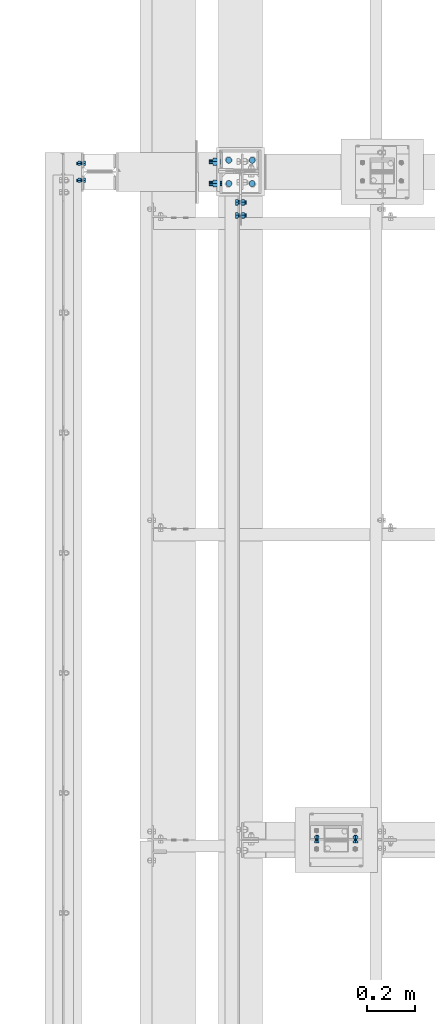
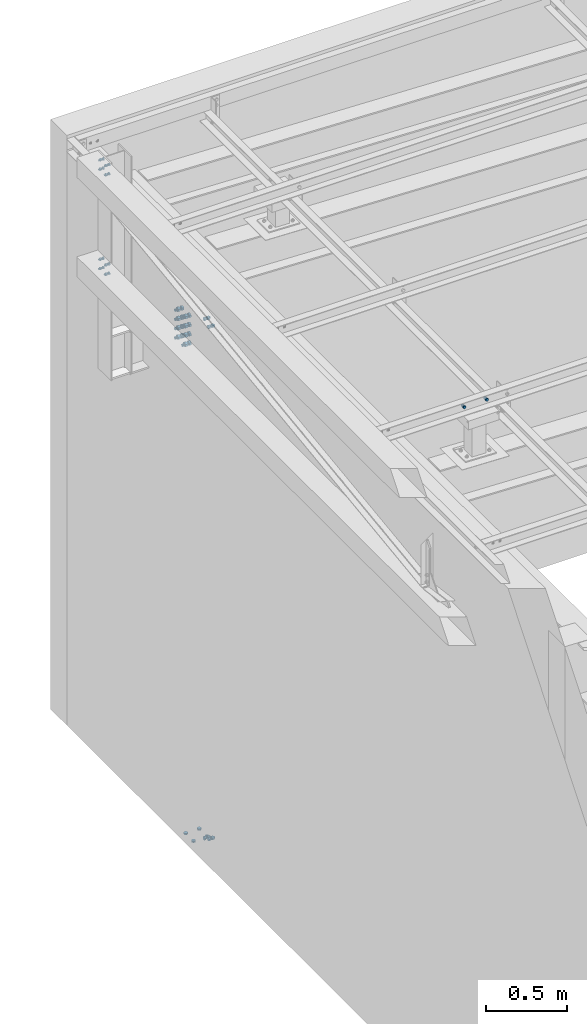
# One storey, part 209 of 3134: 8 mechanical fasteners, 5 elements without a shape of their own.
"""IFC2X3 building model written with IfcOpenShell, lengths in millimetres."""

from ifc_helpers import new_model, si_unit, frame, origin_with_axes, place, context, subcontext, project, spatial, faceted_brep, source, transform, mapped, material, type_object, element, aggregate, save


model = new_model("IFC2X3")

# Units and contexts
model_context = context("Model", 3, precision=1e-05, world=origin_with_axes())
body_context = subcontext(model_context, "Body", "Model", "MODEL_VIEW")
ifc_project = project(units=[si_unit("LENGTHUNIT", "METRE", prefix="MILLI"), si_unit("AREAUNIT", "SQUARE_METRE"), si_unit("VOLUMEUNIT", "CUBIC_METRE"), si_unit("MASSUNIT", "GRAM", prefix="KILO"), si_unit("TIMEUNIT", "SECOND"), si_unit("PLANEANGLEUNIT", "RADIAN"), si_unit("SOLIDANGLEUNIT", "STERADIAN"), si_unit("THERMODYNAMICTEMPERATUREUNIT", "DEGREE_CELSIUS"), si_unit("LUMINOUSINTENSITYUNIT", "LUMEN")], contexts=[model_context])

# Site, building, storey
site_placement = place(None, origin_with_axes())
site = spatial("IfcSite", under=ifc_project, at=site_placement, CompositionType="ELEMENT")
building_placement = place(site_placement, origin_with_axes())
building = spatial("IfcBuilding", under=site, at=building_placement, Name="Undefined", CompositionType="ELEMENT")
storey_placement = place(building_placement, origin_with_axes())
storey = spatial("IfcBuildingStorey", under=building, at=storey_placement, Name="Undefined", CompositionType="ELEMENT", Elevation=0.0)

# Assembly, mechanical fasteners
assembly_1_placement = place(storey_placement, origin_with_axes())
assembly_1 = element("IfcElementAssembly", 1, at=assembly_1_placement, inside=storey, Name="HEA160", AssemblyPlace="NOTDEFINED", PredefinedType="RIGID_FRAME")
ifc_material = material(Name="8.8")
mechanical_fastener_type = type_object("IfcMechanicalFastenerType", Name="Bolt assembly")
shared_shape_1 = source(origin_with_axes(), body_context, "Body", "Brep", [
    faceted_brep([(10.9696551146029, -17.0000000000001, 0.0), (5.48482755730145, -17.0000000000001, 9.5), (-5.48482755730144, -17.0000000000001, 9.5), (-10.9696551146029, -17.0000000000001, 1.34339530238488e-15), (-5.48482755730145, -17.0000000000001, -9.5), (5.48482755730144, -17.0000000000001, -9.50000000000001), (5.48482755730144, -9.00000000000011, -9.50000000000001), (-5.48482755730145, -9.00000000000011, -9.5), (-10.9696551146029, -9.00000000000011, 1.34339530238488e-15), (-5.48482755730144, -9.00000000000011, 9.5), (5.48482755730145, -9.00000000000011, 9.5), (10.9696551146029, -9.00000000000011, 0.0), (6.0, -9.00000000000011, 0.0), (5.19615242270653, -9.00000000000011, 3.00000000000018), (2.99999999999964, -9.00000000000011, 5.19615242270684), (-6.21801588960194e-13, -9.00000000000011, 6.0), (-3.00000000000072, -9.00000000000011, 5.19615242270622), (-5.19615242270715, -9.00000000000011, 2.9999999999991), (-6.0, -9.00000000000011, -1.24360317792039e-12), (-5.19615242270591, -9.00000000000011, -3.00000000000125), (-2.99999999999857, -9.00000000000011, -5.19615242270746), (1.85874342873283e-12, -9.00000000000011, -6.0), (3.00000000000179, -9.00000000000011, -5.1961524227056), (5.19615242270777, -9.00000000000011, -2.99999999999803), (5.19615242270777, 21.0, -2.99999999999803), (3.00000000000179, 21.0, -5.1961524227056), (1.85874342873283e-12, 21.0, -6.0), (-2.99999999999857, 21.0, -5.19615242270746), (-5.19615242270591, 21.0, -3.00000000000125), (-6.0, 21.0, -1.24360317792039e-12), (-5.19615242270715, 21.0, 2.9999999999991), (-3.00000000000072, 21.0, 5.19615242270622), (-6.21801588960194e-13, 21.0, 6.0), (2.99999999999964, 21.0, 5.19615242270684), (5.19615242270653, 21.0, 3.00000000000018), (6.0, 21.0, 0.0), (10.9696551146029, 4.00000000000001, 0.0), (5.48482755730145, 4.00000000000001, 9.5), (-5.48482755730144, 4.00000000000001, 9.5), (-10.9696551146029, 4.00000000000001, 1.34339530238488e-15), (-5.48482755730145, 4.00000000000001, -9.5), (5.48482755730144, 4.00000000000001, -9.50000000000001), (5.48482755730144, 14.0, -9.50000000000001), (-5.48482755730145, 14.0, -9.5), (-10.9696551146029, 14.0, 1.34339530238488e-15), (-5.48482755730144, 14.0, 9.5), (5.48482755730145, 14.0, 9.5), (10.9696551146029, 14.0, 0.0)], [[[0, 1, 2, 3, 4, 5]], [[6, 7, 8, 9, 10, 11]], [[0, 11, 10, 1]], [[1, 10, 9, 2]], [[2, 9, 8, 3]], [[3, 8, 7, 4]], [[4, 7, 6, 5]], [[5, 6, 11, 0]], [[12, 13, 14, 15, 16, 17, 18, 19, 20, 21, 22, 23]], [[24, 25, 26, 27, 28, 29, 30, 31, 32, 33, 34, 35]], [[12, 35, 34, 13]], [[13, 34, 33, 14]], [[14, 33, 32, 15]], [[15, 32, 31, 16]], [[16, 31, 30, 17]], [[17, 30, 29, 18]], [[18, 29, 28, 19]], [[19, 28, 27, 20]], [[20, 27, 26, 21]], [[21, 26, 25, 22]], [[22, 25, 24, 23]], [[23, 24, 35, 12]], [[36, 37, 38, 39, 40, 41]], [[42, 43, 44, 45, 46, 47]], [[36, 47, 46, 37]], [[37, 46, 45, 38]], [[38, 45, 44, 39]], [[39, 44, 43, 40]], [[40, 43, 42, 41]], [[41, 42, 47, 36]]]),
    faceted_brep([(7.0, -0.1, 0.0), (6.06217782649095, -0.1, 3.50000000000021), (3.49999999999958, -0.1, 6.06217782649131), (-7.25435187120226e-13, -0.1, 7.0), (-3.50000000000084, -0.1, 6.06217782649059), (-6.06217782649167, -0.1, 3.49999999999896), (-7.0, -0.1, -1.45087037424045e-12), (-6.06217782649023, -0.1, -3.50000000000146), (-3.49999999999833, -0.1, -6.06217782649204), (2.1685340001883e-12, -0.1, -7.0), (3.50000000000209, -0.1, -6.06217782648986), (6.0621778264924, -0.1, -3.4999999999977), (6.0621778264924, 4.00000000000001, -3.4999999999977), (3.50000000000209, 4.00000000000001, -6.06217782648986), (2.1685340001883e-12, 4.00000000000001, -7.0), (-3.49999999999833, 4.00000000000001, -6.06217782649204), (-6.06217782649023, 4.00000000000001, -3.50000000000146), (-7.0, 4.00000000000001, -1.45087037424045e-12), (-6.06217782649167, 4.00000000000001, 3.49999999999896), (-3.50000000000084, 4.00000000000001, 6.06217782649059), (-7.25435187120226e-13, 4.00000000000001, 7.0), (3.49999999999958, 4.00000000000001, 6.06217782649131), (6.06217782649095, 4.00000000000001, 3.50000000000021), (7.0, 4.00000000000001, 0.0), (7.0, -8.90000000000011, 0.0), (6.06217782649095, -8.90000000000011, 3.50000000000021), (3.49999999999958, -8.90000000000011, 6.06217782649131), (-7.25435187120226e-13, -8.90000000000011, 7.0), (-3.50000000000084, -8.90000000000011, 6.06217782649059), (-6.06217782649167, -8.90000000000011, 3.49999999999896), (-7.0, -8.90000000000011, -1.45087037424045e-12), (-6.06217782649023, -8.90000000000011, -3.50000000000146), (-3.49999999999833, -8.90000000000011, -6.06217782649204), (2.1685340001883e-12, -8.90000000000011, -7.0), (3.50000000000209, -8.90000000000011, -6.06217782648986), (6.0621778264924, -8.90000000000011, -3.4999999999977), (6.0621778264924, 0.0999999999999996, -3.4999999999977), (3.50000000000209, 0.0999999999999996, -6.06217782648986), (2.1685340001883e-12, 0.0999999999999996, -7.0), (-3.49999999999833, 0.0999999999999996, -6.06217782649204), (-6.06217782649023, 0.0999999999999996, -3.50000000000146), (-7.0, 0.0999999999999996, -1.45087037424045e-12), (-6.06217782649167, 0.0999999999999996, 3.49999999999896), (-3.50000000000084, 0.0999999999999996, 6.06217782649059), (-7.25435187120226e-13, 0.0999999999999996, 7.0), (3.49999999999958, 0.0999999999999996, 6.06217782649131), (6.06217782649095, 0.0999999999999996, 3.50000000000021), (7.0, 0.0999999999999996, 0.0)], [[[0, 1, 2, 3, 4, 5, 6, 7, 8, 9, 10, 11]], [[12, 13, 14, 15, 16, 17, 18, 19, 20, 21, 22, 23]], [[0, 23, 22, 1]], [[1, 22, 21, 2]], [[2, 21, 20, 3]], [[3, 20, 19, 4]], [[4, 19, 18, 5]], [[5, 18, 17, 6]], [[6, 17, 16, 7]], [[7, 16, 15, 8]], [[8, 15, 14, 9]], [[9, 14, 13, 10]], [[10, 13, 12, 11]], [[11, 12, 23, 0]], [[24, 25, 26, 27, 28, 29, 30, 31, 32, 33, 34, 35]], [[36, 37, 38, 39, 40, 41, 42, 43, 44, 45, 46, 47]], [[24, 47, 46, 25]], [[25, 46, 45, 26]], [[26, 45, 44, 27]], [[27, 44, 43, 28]], [[28, 43, 42, 29]], [[29, 42, 41, 30]], [[30, 41, 40, 31]], [[31, 40, 39, 32]], [[32, 39, 38, 33]], [[33, 38, 37, 34]], [[34, 37, 36, 35]], [[35, 36, 47, 24]]]),
])
mechanical_fastener_1_placement = place(assembly_1_placement, frame((-657.0, 48525.0, 4160.0), z_axis=(0.0, 1.0, 0.0), x_axis=(0.0, 0.0, -1.0)))
mechanical_fastener_1 = element("IfcMechanicalFastener", 2, at=mechanical_fastener_1_placement, type_object=mechanical_fastener_type, material=ifc_material, Name="Bolt assembly", NominalDiameter=12.0, NominalLength=30.0, context=body_context, shape_type="MappedRepresentation", body=[
    mapped(shared_shape_1, transform((0.0, 0.0, -35.0))),
    mapped(shared_shape_1, transform((70.0, 0.0, -35.0))),
    mapped(shared_shape_1, transform((0.0, 0.0, 35.0))),
    mapped(shared_shape_1, transform((70.0, 0.0, 35.0))),
])
mechanical_fastener_2_placement = place(assembly_1_placement, frame((-657.0, 48525.0, 4910.0), z_axis=(0.0, 1.0, 0.0), x_axis=(0.0, 0.0, -1.0)))
mechanical_fastener_2 = element("IfcMechanicalFastener", 3, at=mechanical_fastener_2_placement, type_object=mechanical_fastener_type, material=ifc_material, Name="Bolt assembly", NominalDiameter=12.0, NominalLength=30.0, context=body_context, shape_type="MappedRepresentation", body=[
    mapped(shared_shape_1, transform((0.0, 0.0, -35.0))),
    mapped(shared_shape_1, transform((70.0, 0.0, -35.0))),
    mapped(shared_shape_1, transform((0.0, 0.0, 35.0))),
    mapped(shared_shape_1, transform((70.0, 0.0, 35.0))),
])
shared_shape_2 = source(origin_with_axes(), body_context, "Body", "Brep", [
    faceted_brep([(17.3205080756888, -13.0, 0.0), (8.66025403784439, -13.0, 15.0), (-8.66025403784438, -13.0, 15.0), (-17.3205080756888, -13.0, 2.12115047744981e-15), (-8.66025403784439, -13.0, -15.0), (8.66025403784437, -13.0, -15.0), (8.66025403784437, 0.0, -15.0), (-8.66025403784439, 0.0, -15.0), (-17.3205080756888, 0.0, 2.12115047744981e-15), (-8.66025403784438, 0.0, 15.0), (8.66025403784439, 0.0, 15.0), (17.3205080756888, 0.0, 0.0), (10.0, 0.0, 0.0), (8.66025403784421, 0.0, 5.0000000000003), (4.9999999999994, 0.0, 8.66025403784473), (-1.03633598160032e-12, 0.0, 10.0), (-5.00000000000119, 0.0, 8.6602540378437), (-8.66025403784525, 0.0, 4.99999999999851), (-10.0, 0.0, -2.07267196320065e-12), (-8.66025403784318, 0.0, -5.00000000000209), (-4.99999999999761, 0.0, -8.66025403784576), (3.09790571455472e-12, 0.0, -10.0), (5.00000000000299, 0.0, -8.66025403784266), (8.66025403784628, 0.0, -4.99999999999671), (8.66025403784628, 45.0, -4.99999999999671), (5.00000000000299, 45.0, -8.66025403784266), (3.09790571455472e-12, 45.0, -10.0), (-4.99999999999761, 45.0, -8.66025403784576), (-8.66025403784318, 45.0, -5.00000000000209), (-10.0, 45.0, -2.07267196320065e-12), (-8.66025403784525, 45.0, 4.99999999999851), (-5.00000000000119, 45.0, 8.6602540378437), (-1.03633598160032e-12, 45.0, 10.0), (4.9999999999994, 45.0, 8.66025403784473), (8.66025403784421, 45.0, 5.0000000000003), (10.0, 45.0, 0.0), (17.3205080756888, 12.0, 0.0), (8.66025403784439, 12.0, 15.0), (-8.66025403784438, 12.0, 15.0), (-17.3205080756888, 12.0, 2.12115047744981e-15), (-8.66025403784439, 12.0, -15.0), (8.66025403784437, 12.0, -15.0), (8.66025403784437, 28.0, -15.0), (-8.66025403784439, 28.0, -15.0), (-17.3205080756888, 28.0, 2.12115047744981e-15), (-8.66025403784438, 28.0, 15.0), (8.66025403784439, 28.0, 15.0), (17.3205080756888, 28.0, 0.0)], [[[0, 1, 2, 3, 4, 5]], [[6, 7, 8, 9, 10, 11]], [[0, 11, 10, 1]], [[1, 10, 9, 2]], [[2, 9, 8, 3]], [[3, 8, 7, 4]], [[4, 7, 6, 5]], [[5, 6, 11, 0]], [[12, 13, 14, 15, 16, 17, 18, 19, 20, 21, 22, 23]], [[24, 25, 26, 27, 28, 29, 30, 31, 32, 33, 34, 35]], [[12, 35, 34, 13]], [[13, 34, 33, 14]], [[14, 33, 32, 15]], [[15, 32, 31, 16]], [[16, 31, 30, 17]], [[17, 30, 29, 18]], [[18, 29, 28, 19]], [[19, 28, 27, 20]], [[20, 27, 26, 21]], [[21, 26, 25, 22]], [[22, 25, 24, 23]], [[23, 24, 35, 12]], [[36, 37, 38, 39, 40, 41]], [[42, 43, 44, 45, 46, 47]], [[36, 47, 46, 37]], [[37, 46, 45, 38]], [[38, 45, 44, 39]], [[39, 44, 43, 40]], [[40, 43, 42, 41]], [[41, 42, 47, 36]]]),
    faceted_brep([(11.0, 0.0, 0.0), (9.52627944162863, 0.0, 5.50000000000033), (5.49999999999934, 0.0, 9.5262794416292), (-1.13996957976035e-12, 0.0, 11.0), (-5.50000000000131, 0.0, 9.52627944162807), (-9.52627944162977, 0.0, 5.49999999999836), (-11.0, 0.0, -2.27993915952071e-12), (-9.5262794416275, 0.0, -5.5000000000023), (-5.49999999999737, 0.0, -9.52627944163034), (3.40769628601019e-12, 0.0, -11.0), (5.50000000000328, 0.0, -9.52627944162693), (9.52627944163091, 0.0, -5.49999999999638), (9.52627944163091, 12.1, -5.49999999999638), (5.50000000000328, 12.1, -9.52627944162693), (3.40769628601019e-12, 12.1, -11.0), (-5.49999999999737, 12.1, -9.52627944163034), (-9.5262794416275, 12.1, -5.5000000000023), (-11.0, 12.1, -2.27993915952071e-12), (-9.52627944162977, 12.1, 5.49999999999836), (-5.50000000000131, 12.1, 9.52627944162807), (-1.13996957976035e-12, 12.1, 11.0), (5.49999999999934, 12.1, 9.5262794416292), (9.52627944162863, 12.1, 5.50000000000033), (11.0, 12.1, 0.0)], [[[0, 1, 2, 3, 4, 5, 6, 7, 8, 9, 10, 11]], [[12, 13, 14, 15, 16, 17, 18, 19, 20, 21, 22, 23]], [[0, 23, 22, 1]], [[1, 22, 21, 2]], [[2, 21, 20, 3]], [[3, 20, 19, 4]], [[4, 19, 18, 5]], [[5, 18, 17, 6]], [[6, 17, 16, 7]], [[7, 16, 15, 8]], [[8, 15, 14, 9]], [[9, 14, 13, 10]], [[10, 13, 12, 11]], [[11, 12, 23, 0]]]),
])
mechanical_fastener_3_placement = place(assembly_1_placement, frame((-85.5, 48522.0, 3583.0), z_axis=(0.0, 1.0, 0.0), x_axis=(0.0, 0.0, -1.0)))
mechanical_fastener_3 = element("IfcMechanicalFastener", 4, at=mechanical_fastener_3_placement, type_object=mechanical_fastener_type, material=ifc_material, Name="Bolt assembly", NominalDiameter=20.0, NominalLength=45.0, context=body_context, shape_type="MappedRepresentation", body=[
    mapped(shared_shape_2, transform((0.0, 0.0, -45.0))),
    mapped(shared_shape_2, transform((70.0, 0.0, -45.0))),
    mapped(shared_shape_2, transform((140.0, 0.0, -45.0))),
    mapped(shared_shape_2, transform((210.0, 0.0, -45.0))),
    mapped(shared_shape_2, transform((0.0, 0.0, 45.0))),
    mapped(shared_shape_2, transform((70.0, 0.0, 45.0))),
    mapped(shared_shape_2, transform((140.0, 0.0, 45.0))),
    mapped(shared_shape_2, transform((210.0, 0.0, 45.0))),
])
aggregate(assembly_1, [mechanical_fastener_1, mechanical_fastener_2, mechanical_fastener_3])

assembly_2_placement = place(storey_placement, origin_with_axes())
assembly_2 = element("IfcElementAssembly", 5, at=assembly_2_placement, inside=storey, Name="HEA180", AssemblyPlace="NOTDEFINED", PredefinedType="RIGID_FRAME")
shared_shape_3 = source(origin_with_axes(), body_context, "Body", "Brep", [
    faceted_brep([(11.0, -9.5, 0.0), (9.52627944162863, -9.5, 5.50000000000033), (5.49999999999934, -9.5, 9.5262794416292), (-1.13996957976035e-12, -9.5, 11.0), (-5.50000000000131, -9.5, 9.52627944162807), (-9.52627944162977, -9.5, 5.49999999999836), (-11.0, -9.5, -2.27993915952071e-12), (-9.5262794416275, -9.5, -5.5000000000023), (-5.49999999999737, -9.5, -9.52627944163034), (3.40769628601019e-12, -9.5, -11.0), (5.50000000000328, -9.5, -9.52627944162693), (9.52627944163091, -9.5, -5.49999999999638), (9.52627944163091, 0.0999999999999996, -5.49999999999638), (5.50000000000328, 0.0999999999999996, -9.52627944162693), (3.40769628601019e-12, 0.0999999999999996, -11.0), (-5.49999999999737, 0.0999999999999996, -9.52627944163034), (-9.5262794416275, 0.0999999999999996, -5.5000000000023), (-11.0, 0.0999999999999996, -2.27993915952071e-12), (-9.52627944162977, 0.0999999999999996, 5.49999999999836), (-5.50000000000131, 0.0999999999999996, 9.52627944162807), (-1.13996957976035e-12, 0.0999999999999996, 11.0), (5.49999999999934, 0.0999999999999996, 9.5262794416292), (9.52627944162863, 0.0999999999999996, 5.50000000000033), (11.0, 0.0999999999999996, 0.0)], [[[0, 1, 2, 3, 4, 5, 6, 7, 8, 9, 10, 11]], [[12, 13, 14, 15, 16, 17, 18, 19, 20, 21, 22, 23]], [[0, 23, 22, 1]], [[1, 22, 21, 2]], [[2, 21, 20, 3]], [[3, 20, 19, 4]], [[4, 19, 18, 5]], [[5, 18, 17, 6]], [[6, 17, 16, 7]], [[7, 16, 15, 8]], [[8, 15, 14, 9]], [[9, 14, 13, 10]], [[10, 13, 12, 11]], [[11, 12, 23, 0]]]),
])
mechanical_fastener_4_placement = place(assembly_2_placement, frame((-85.5, 48522.0, 3583.0), z_axis=(0.0, 1.0, 0.0), x_axis=(0.0, 0.0, -1.0)))
mechanical_fastener_4 = element("IfcMechanicalFastener", 6, at=mechanical_fastener_4_placement, type_object=mechanical_fastener_type, material=ifc_material, Name="Bolt assembly", NominalDiameter=20.0, NominalLength=9.5, context=body_context, shape_type="MappedRepresentation", body=[
    mapped(shared_shape_3, transform((0.0, 0.0, -45.0))),
    mapped(shared_shape_3, transform((70.0, 0.0, -45.0))),
    mapped(shared_shape_3, transform((140.0, 0.0, -45.0))),
    mapped(shared_shape_3, transform((210.0, 0.0, -45.0))),
    mapped(shared_shape_3, transform((0.0, 0.0, 45.0))),
    mapped(shared_shape_3, transform((70.0, 0.0, 45.0))),
    mapped(shared_shape_3, transform((140.0, 0.0, 45.0))),
    mapped(shared_shape_3, transform((210.0, 0.0, 45.0))),
])
shared_shape_4 = source(origin_with_axes(), body_context, "Body", "Brep", [
    faceted_brep([(13.0, 0.0, 0.0), (11.2583302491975, 0.0, 6.50000000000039), (6.49999999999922, 0.0, 11.2583302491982), (-1.34723677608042e-12, 0.0, 13.0), (-6.50000000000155, 0.0, 11.2583302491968), (-11.2583302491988, 0.0, 6.49999999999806), (-13.0, 0.0, -2.69447355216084e-12), (-11.2583302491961, 0.0, -6.50000000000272), (-6.4999999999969, 0.0, -11.2583302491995), (4.02727742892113e-12, 0.0, -13.0), (6.50000000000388, 0.0, -11.2583302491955), (11.2583302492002, 0.0, -6.49999999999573), (11.2583302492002, 12.1, -6.49999999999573), (6.50000000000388, 12.1, -11.2583302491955), (4.02727742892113e-12, 12.1, -13.0), (-6.4999999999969, 12.1, -11.2583302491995), (-11.2583302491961, 12.1, -6.50000000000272), (-13.0, 12.1, -2.69447355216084e-12), (-11.2583302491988, 12.1, 6.49999999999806), (-6.50000000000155, 12.1, 11.2583302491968), (-1.34723677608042e-12, 12.1, 13.0), (6.49999999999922, 12.1, 11.2583302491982), (11.2583302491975, 12.1, 6.50000000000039), (13.0, 12.1, 0.0)], [[[0, 1, 2, 3, 4, 5, 6, 7, 8, 9, 10, 11]], [[12, 13, 14, 15, 16, 17, 18, 19, 20, 21, 22, 23]], [[0, 23, 22, 1]], [[1, 22, 21, 2]], [[2, 21, 20, 3]], [[3, 20, 19, 4]], [[4, 19, 18, 5]], [[5, 18, 17, 6]], [[6, 17, 16, 7]], [[7, 16, 15, 8]], [[8, 15, 14, 9]], [[9, 14, 13, 10]], [[10, 13, 12, 11]], [[11, 12, 23, 0]]]),
])
mechanical_fastener_5_placement = place(assembly_2_placement, frame((48.0, 48525.0, -400.0), z_axis=(0.0, 1.0, 0.0), x_axis=(-1.0, 0.0, 0.0)))
mechanical_fastener_5 = element("IfcMechanicalFastener", 7, at=mechanical_fastener_5_placement, type_object=mechanical_fastener_type, material=ifc_material, Name="Bolt assembly", NominalDiameter=24.0, NominalLength=12.0, context=body_context, shape_type="MappedRepresentation", body=[
    mapped(shared_shape_4, transform((0.0, 0.0, -48.0))),
    mapped(shared_shape_4, transform((96.0, 0.0, -48.0))),
    mapped(shared_shape_4, transform((0.0, 0.0, 48.0))),
    mapped(shared_shape_4, transform((96.0, 0.0, 48.0))),
])
aggregate(assembly_2, [mechanical_fastener_4, mechanical_fastener_5])

# Assembly, mechanical fastener
assembly_3_placement = place(storey_placement, origin_with_axes())
assembly_3 = element("IfcElementAssembly", 8, at=assembly_3_placement, inside=storey, AssemblyPlace="NOTDEFINED", PredefinedType="RIGID_FRAME")
shared_shape_5 = source(origin_with_axes(), body_context, "Body", "Brep", [
    faceted_brep([(13.856406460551, -20.0, 0.0), (6.92820323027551, -20.0, 12.0), (-6.92820323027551, -20.0, 12.0), (-13.856406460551, -20.0, 1.69692038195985e-15), (-6.92820323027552, -20.0, -12.0), (6.9282032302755, -20.0, -12.0), (6.9282032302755, -10.0, -12.0), (-6.92820323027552, -10.0, -12.0), (-13.856406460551, -10.0, 1.69692038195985e-15), (-6.92820323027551, -10.0, 12.0), (6.92820323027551, -10.0, 12.0), (13.856406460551, -10.0, 0.0), (8.0, -10.0, 0.0), (6.92820323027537, -10.0, 4.00000000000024), (3.99999999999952, -10.0, 6.92820323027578), (-8.29068785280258e-13, -10.0, 8.0), (-4.00000000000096, -10.0, 6.92820323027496), (-6.9282032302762, -10.0, 3.99999999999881), (-8.0, -10.0, -1.65813757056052e-12), (-6.92820323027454, -10.0, -4.00000000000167), (-3.99999999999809, -10.0, -6.92820323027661), (2.47832457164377e-12, -10.0, -8.0), (4.00000000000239, -10.0, -6.92820323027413), (6.92820323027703, -10.0, -3.99999999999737), (6.92820323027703, 25.0, -3.99999999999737), (4.00000000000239, 25.0, -6.92820323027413), (2.47832457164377e-12, 25.0, -8.0), (-3.99999999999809, 25.0, -6.92820323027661), (-6.92820323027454, 25.0, -4.00000000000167), (-8.0, 25.0, -1.65813757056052e-12), (-6.9282032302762, 25.0, 3.99999999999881), (-4.00000000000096, 25.0, 6.92820323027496), (-8.29068785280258e-13, 25.0, 8.0), (3.99999999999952, 25.0, 6.92820323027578), (6.92820323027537, 25.0, 4.00000000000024), (8.0, 25.0, 0.0), (13.856406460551, 3.99999999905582, 0.0), (6.92820323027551, 3.99999999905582, 12.0), (-6.92820323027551, 3.99999999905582, 12.0), (-13.856406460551, 3.99999999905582, 1.69692038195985e-15), (-6.92820323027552, 3.99999999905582, -12.0), (6.9282032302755, 3.99999999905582, -12.0), (6.9282032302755, 16.9999999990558, -12.0), (-6.92820323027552, 16.9999999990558, -12.0), (-13.856406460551, 16.9999999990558, 1.69692038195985e-15), (-6.92820323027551, 16.9999999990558, 12.0), (6.92820323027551, 16.9999999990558, 12.0), (13.856406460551, 16.9999999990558, 0.0)], [[[0, 1, 2, 3, 4, 5]], [[6, 7, 8, 9, 10, 11]], [[0, 11, 10, 1]], [[1, 10, 9, 2]], [[2, 9, 8, 3]], [[3, 8, 7, 4]], [[4, 7, 6, 5]], [[5, 6, 11, 0]], [[12, 13, 14, 15, 16, 17, 18, 19, 20, 21, 22, 23]], [[24, 25, 26, 27, 28, 29, 30, 31, 32, 33, 34, 35]], [[12, 35, 34, 13]], [[13, 34, 33, 14]], [[14, 33, 32, 15]], [[15, 32, 31, 16]], [[16, 31, 30, 17]], [[17, 30, 29, 18]], [[18, 29, 28, 19]], [[19, 28, 27, 20]], [[20, 27, 26, 21]], [[21, 26, 25, 22]], [[22, 25, 24, 23]], [[23, 24, 35, 12]], [[36, 37, 38, 39, 40, 41]], [[42, 43, 44, 45, 46, 47]], [[36, 47, 46, 37]], [[37, 46, 45, 38]], [[38, 45, 44, 39]], [[39, 44, 43, 40]], [[40, 43, 42, 41]], [[41, 42, 47, 36]]]),
    faceted_brep([(9.0, -4.10000000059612, 0.0), (7.79422863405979, -4.10000000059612, 4.50000000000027), (4.49999999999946, -4.10000000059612, 7.79422863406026), (-9.3270238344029e-13, -4.10000000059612, 9.0), (-4.50000000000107, -4.10000000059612, 7.79422863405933), (-7.79422863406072, -4.10000000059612, 4.49999999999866), (-9.0, -4.10000000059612, -1.86540476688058e-12), (-7.79422863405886, -4.10000000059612, -4.50000000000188), (-4.49999999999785, -4.10000000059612, -7.79422863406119), (2.78811514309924e-12, -4.10000000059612, -9.0), (4.50000000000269, -4.10000000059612, -7.7942286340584), (7.79422863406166, -4.10000000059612, -4.49999999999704), (7.79422863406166, 4.00000375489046, -4.49999999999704), (4.50000000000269, 4.00000375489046, -7.7942286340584), (2.78811514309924e-12, 4.00000375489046, -9.0), (-4.49999999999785, 4.00000375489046, -7.79422863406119), (-7.79422863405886, 4.00000375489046, -4.50000000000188), (-9.0, 4.00000375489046, -1.86540476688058e-12), (-7.79422863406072, 4.00000375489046, 4.49999999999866), (-4.50000000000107, 4.00000375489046, 7.79422863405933), (-9.3270238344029e-13, 4.00000375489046, 9.0), (4.49999999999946, 4.00000375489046, 7.79422863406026), (7.79422863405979, 4.00000375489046, 4.50000000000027), (9.0, 4.00000375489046, 0.0), (9.0, -9.89999997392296, 0.0), (7.79422863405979, -9.89999997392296, 4.50000000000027), (4.49999999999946, -9.89999997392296, 7.79422863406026), (-9.3270238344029e-13, -9.89999997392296, 9.0), (-4.50000000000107, -9.89999997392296, 7.79422863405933), (-7.79422863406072, -9.89999997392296, 4.49999999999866), (-9.0, -9.89999997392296, -1.86540476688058e-12), (-7.79422863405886, -9.89999997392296, -4.50000000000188), (-4.49999999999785, -9.89999997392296, -7.79422863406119), (2.78811514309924e-12, -9.89999997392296, -9.0), (4.50000000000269, -9.89999997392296, -7.7942286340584), (7.79422863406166, -9.89999997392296, -4.49999999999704), (7.79422863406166, -3.9, -4.49999999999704), (4.50000000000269, -3.9, -7.7942286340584), (2.78811514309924e-12, -3.9, -9.0), (-4.49999999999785, -3.9, -7.79422863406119), (-7.79422863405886, -3.9, -4.50000000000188), (-9.0, -3.9, -1.86540476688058e-12), (-7.79422863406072, -3.9, 4.49999999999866), (-4.50000000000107, -3.9, 7.79422863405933), (-9.3270238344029e-13, -3.9, 9.0), (4.49999999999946, -3.9, 7.79422863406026), (7.79422863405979, -3.9, 4.50000000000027), (9.0, -3.9, 0.0)], [[[0, 1, 2, 3, 4, 5, 6, 7, 8, 9, 10, 11]], [[12, 13, 14, 15, 16, 17, 18, 19, 20, 21, 22, 23]], [[0, 23, 22, 1]], [[1, 22, 21, 2]], [[2, 21, 20, 3]], [[3, 20, 19, 4]], [[4, 19, 18, 5]], [[5, 18, 17, 6]], [[6, 17, 16, 7]], [[7, 16, 15, 8]], [[8, 15, 14, 9]], [[9, 14, 13, 10]], [[10, 13, 12, 11]], [[11, 12, 23, 0]], [[24, 25, 26, 27, 28, 29, 30, 31, 32, 33, 34, 35]], [[36, 37, 38, 39, 40, 41, 42, 43, 44, 45, 46, 47]], [[24, 47, 46, 25]], [[25, 46, 45, 26]], [[26, 45, 44, 27]], [[27, 44, 43, 28]], [[28, 43, 42, 29]], [[29, 42, 41, 30]], [[30, 41, 40, 31]], [[31, 40, 39, 32]], [[32, 39, 38, 33]], [[33, 38, 37, 34]], [[34, 37, 36, 35]], [[35, 36, 47, 24]]]),
])
mechanical_fastener_6_placement = place(assembly_3_placement, frame((0.0, 48399.1928804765, -338.578760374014), z_axis=(0.0, 0.438723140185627, 0.898622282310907), x_axis=(0.0, -0.898622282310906, 0.438723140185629)))
mechanical_fastener_6 = element("IfcMechanicalFastener", 9, at=mechanical_fastener_6_placement, type_object=mechanical_fastener_type, material=ifc_material, Name="Bolt assembly", NominalDiameter=16.0, NominalLength=35.0, context=body_context, shape_type="MappedRepresentation", body=[
    mapped(shared_shape_5, transform((0.0, 0.0, 0.0))),
    mapped(shared_shape_5, transform((59.9999999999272, 0.0, 5.40239852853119e-10))),
])
aggregate(assembly_3, [mechanical_fastener_6])

assembly_4_placement = place(storey_placement, origin_with_axes())
assembly_4 = element("IfcElementAssembly", 10, at=assembly_4_placement, inside=storey, AssemblyPlace="NOTDEFINED", PredefinedType="RIGID_FRAME")
mechanical_fastener_7_placement = place(assembly_4_placement, frame((0.0, 48399.1928804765, 3578.57876037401), z_axis=(0.0, -0.438723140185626, 0.898622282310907), x_axis=(0.0, -0.898622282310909, -0.438723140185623)))
mechanical_fastener_7 = element("IfcMechanicalFastener", 11, at=mechanical_fastener_7_placement, type_object=mechanical_fastener_type, material=ifc_material, Name="Bolt assembly", NominalDiameter=16.0, NominalLength=35.0, context=body_context, shape_type="MappedRepresentation", body=[
    mapped(shared_shape_5, transform((0.0, 0.0, 0.0))),
    mapped(shared_shape_5, transform((59.9999999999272, 0.0, 5.40239852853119e-10))),
])
aggregate(assembly_4, [mechanical_fastener_7])

assembly_5_placement = place(storey_placement, origin_with_axes())
assembly_5 = element("IfcElementAssembly", 12, at=assembly_5_placement, inside=storey, AssemblyPlace="NOTDEFINED", PredefinedType="RIGID_FRAME")
shared_shape_6 = source(origin_with_axes(), body_context, "Body", "Brep", [
    faceted_brep([(10.9696551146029, -12.0, 0.0), (5.48482755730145, -12.0, 9.5), (-5.48482755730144, -12.0, 9.5), (-10.9696551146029, -12.0, 1.34339530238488e-15), (-5.48482755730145, -12.0, -9.5), (5.48482755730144, -12.0, -9.50000000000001), (5.48482755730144, -4.0, -9.50000000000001), (-5.48482755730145, -4.0, -9.5), (-10.9696551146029, -4.0, 1.34339530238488e-15), (-5.48482755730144, -4.0, 9.5), (5.48482755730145, -4.0, 9.5), (10.9696551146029, -4.0, 0.0), (6.0, -4.0, 0.0), (5.19615242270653, -4.0, 3.00000000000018), (2.99999999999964, -4.0, 5.19615242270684), (-6.21801588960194e-13, -4.0, 6.0), (-3.00000000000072, -4.0, 5.19615242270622), (-5.19615242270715, -4.0, 2.9999999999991), (-6.0, -4.0, -1.24360317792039e-12), (-5.19615242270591, -4.0, -3.00000000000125), (-2.99999999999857, -4.0, -5.19615242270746), (1.85874342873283e-12, -4.0, -6.0), (3.00000000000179, -4.0, -5.1961524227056), (5.19615242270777, -4.0, -2.99999999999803), (5.19615242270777, 21.0, -2.99999999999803), (3.00000000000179, 21.0, -5.1961524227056), (1.85874342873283e-12, 21.0, -6.0), (-2.99999999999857, 21.0, -5.19615242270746), (-5.19615242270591, 21.0, -3.00000000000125), (-6.0, 21.0, -1.24360317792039e-12), (-5.19615242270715, 21.0, 2.9999999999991), (-3.00000000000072, 21.0, 5.19615242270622), (-6.21801588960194e-13, 21.0, 6.0), (2.99999999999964, 21.0, 5.19615242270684), (5.19615242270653, 21.0, 3.00000000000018), (6.0, 21.0, 0.0), (10.9696551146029, 6.00000000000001, 0.0), (5.48482755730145, 6.00000000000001, 9.5), (-5.48482755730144, 6.00000000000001, 9.5), (-10.9696551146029, 6.00000000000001, 1.34339530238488e-15), (-5.48482755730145, 6.00000000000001, -9.5), (5.48482755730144, 6.00000000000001, -9.50000000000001), (5.48482755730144, 16.0, -9.50000000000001), (-5.48482755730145, 16.0, -9.5), (-10.9696551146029, 16.0, 1.34339530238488e-15), (-5.48482755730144, 16.0, 9.5), (5.48482755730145, 16.0, 9.5), (10.9696551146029, 16.0, 0.0)], [[[0, 1, 2, 3, 4, 5]], [[6, 7, 8, 9, 10, 11]], [[0, 11, 10, 1]], [[1, 10, 9, 2]], [[2, 9, 8, 3]], [[3, 8, 7, 4]], [[4, 7, 6, 5]], [[5, 6, 11, 0]], [[12, 13, 14, 15, 16, 17, 18, 19, 20, 21, 22, 23]], [[24, 25, 26, 27, 28, 29, 30, 31, 32, 33, 34, 35]], [[12, 35, 34, 13]], [[13, 34, 33, 14]], [[14, 33, 32, 15]], [[15, 32, 31, 16]], [[16, 31, 30, 17]], [[17, 30, 29, 18]], [[18, 29, 28, 19]], [[19, 28, 27, 20]], [[20, 27, 26, 21]], [[21, 26, 25, 22]], [[22, 25, 24, 23]], [[23, 24, 35, 12]], [[36, 37, 38, 39, 40, 41]], [[42, 43, 44, 45, 46, 47]], [[36, 47, 46, 37]], [[37, 46, 45, 38]], [[38, 45, 44, 39]], [[39, 44, 43, 40]], [[40, 43, 42, 41]], [[41, 42, 47, 36]]]),
    faceted_brep([(7.0, -3.9, 0.0), (6.06217782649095, -3.9, 3.50000000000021), (3.49999999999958, -3.9, 6.06217782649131), (-7.25435187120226e-13, -3.9, 7.0), (-3.50000000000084, -3.9, 6.06217782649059), (-6.06217782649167, -3.9, 3.49999999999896), (-7.0, -3.9, -1.45087037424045e-12), (-6.06217782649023, -3.9, -3.50000000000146), (-3.49999999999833, -3.9, -6.06217782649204), (2.1685340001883e-12, -3.9, -7.0), (3.50000000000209, -3.9, -6.06217782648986), (6.0621778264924, -3.9, -3.4999999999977), (6.0621778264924, 0.0999999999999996, -3.4999999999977), (3.50000000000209, 0.0999999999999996, -6.06217782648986), (2.1685340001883e-12, 0.0999999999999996, -7.0), (-3.49999999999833, 0.0999999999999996, -6.06217782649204), (-6.06217782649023, 0.0999999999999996, -3.50000000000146), (-7.0, 0.0999999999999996, -1.45087037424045e-12), (-6.06217782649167, 0.0999999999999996, 3.49999999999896), (-3.50000000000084, 0.0999999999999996, 6.06217782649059), (-7.25435187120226e-13, 0.0999999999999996, 7.0), (3.49999999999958, 0.0999999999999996, 6.06217782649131), (6.06217782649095, 0.0999999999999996, 3.50000000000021), (7.0, 0.0999999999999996, 0.0), (7.0, -0.1, 0.0), (6.06217782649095, -0.1, 3.50000000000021), (3.49999999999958, -0.1, 6.06217782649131), (-7.25435187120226e-13, -0.1, 7.0), (-3.50000000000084, -0.1, 6.06217782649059), (-6.06217782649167, -0.1, 3.49999999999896), (-7.0, -0.1, -1.45087037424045e-12), (-6.06217782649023, -0.1, -3.50000000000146), (-3.49999999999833, -0.1, -6.06217782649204), (2.1685340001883e-12, -0.1, -7.0), (3.50000000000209, -0.1, -6.06217782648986), (6.0621778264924, -0.1, -3.4999999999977), (6.0621778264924, 6.00000000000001, -3.4999999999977), (3.50000000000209, 6.00000000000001, -6.06217782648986), (2.1685340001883e-12, 6.00000000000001, -7.0), (-3.49999999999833, 6.00000000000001, -6.06217782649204), (-6.06217782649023, 6.00000000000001, -3.50000000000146), (-7.0, 6.00000000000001, -1.45087037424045e-12), (-6.06217782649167, 6.00000000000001, 3.49999999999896), (-3.50000000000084, 6.00000000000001, 6.06217782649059), (-7.25435187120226e-13, 6.00000000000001, 7.0), (3.49999999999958, 6.00000000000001, 6.06217782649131), (6.06217782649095, 6.00000000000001, 3.50000000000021), (7.0, 6.00000000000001, 0.0)], [[[0, 1, 2, 3, 4, 5, 6, 7, 8, 9, 10, 11]], [[12, 13, 14, 15, 16, 17, 18, 19, 20, 21, 22, 23]], [[0, 23, 22, 1]], [[1, 22, 21, 2]], [[2, 21, 20, 3]], [[3, 20, 19, 4]], [[4, 19, 18, 5]], [[5, 18, 17, 6]], [[6, 17, 16, 7]], [[7, 16, 15, 8]], [[8, 15, 14, 9]], [[9, 14, 13, 10]], [[10, 13, 12, 11]], [[11, 12, 23, 0]], [[24, 25, 26, 27, 28, 29, 30, 31, 32, 33, 34, 35]], [[36, 37, 38, 39, 40, 41, 42, 43, 44, 45, 46, 47]], [[24, 47, 46, 25]], [[25, 46, 45, 26]], [[26, 45, 44, 27]], [[27, 44, 43, 28]], [[28, 43, 42, 29]], [[29, 42, 41, 30]], [[30, 41, 40, 31]], [[31, 40, 39, 32]], [[32, 39, 38, 33]], [[33, 38, 37, 34]], [[34, 37, 36, 35]], [[35, 36, 47, 24]]]),
])
mechanical_fastener_8_placement = place(assembly_5_placement, frame((394.999950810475, 45766.659683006, 4400.0), z_axis=(1.0, 0.0, 0.0), x_axis=(0.0, 0.0, -1.0)))
mechanical_fastener_8 = element("IfcMechanicalFastener", 13, at=mechanical_fastener_8_placement, type_object=mechanical_fastener_type, material=ifc_material, Name="Bolt assembly", NominalDiameter=12.0, NominalLength=25.0, context=body_context, shape_type="MappedRepresentation", body=[
    mapped(shared_shape_6, transform((0.0, -5.32963895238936e-10, -79.9999999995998))),
    mapped(shared_shape_6, transform((0.0, 5.3114490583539e-10, 79.9999999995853))),
])
aggregate(assembly_5, [mechanical_fastener_8])

save(model, "model.ifc")
